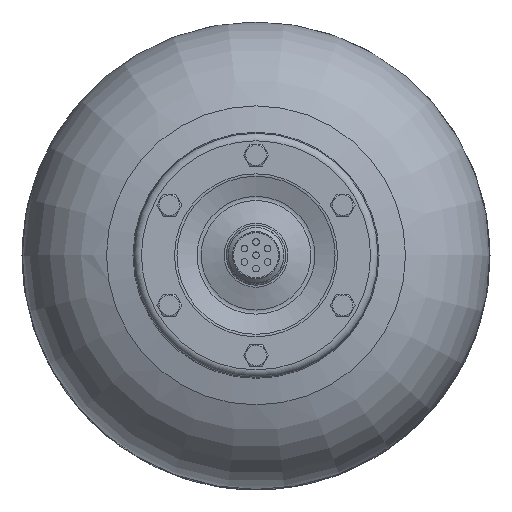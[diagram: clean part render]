
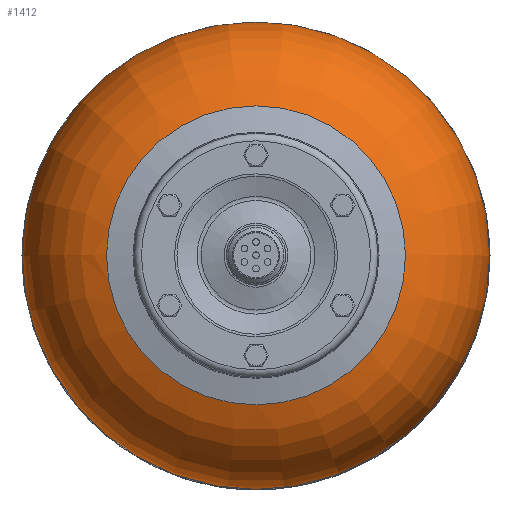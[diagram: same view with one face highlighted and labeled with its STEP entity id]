
A CAD part, top view. The second image highlights one B-rep face of the part: STEP entity #1412.
In plain terms, the highlighted toroidal (fillet/blend) face has major radius 70 mm and minor radius 70 mm.
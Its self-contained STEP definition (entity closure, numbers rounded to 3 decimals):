
#1412=ADVANCED_FACE('',(#2866,#2868),#2870,.T.);
#2866=FACE_BOUND('',#2867,.T.);
#2867=EDGE_LOOP('',(#3716,#3717));
#2868=FACE_OUTER_BOUND('',#2869,.T.);
#2869=EDGE_LOOP('',(#3718));
#2870=DEGENERATE_TOROIDAL_SURFACE('',#2871,70.,70.,.T.);
#2871=AXIS2_PLACEMENT_3D('',#2872,#2873,#2874);
#2872=CARTESIAN_POINT('',(0.,0.,143.349));
#2873=DIRECTION('',(0.,0.,1.));
#2874=DIRECTION('',(1.,0.,0.));
#3716=ORIENTED_EDGE('',*,*,#4141,.T.);
#3717=ORIENTED_EDGE('',*,*,#4142,.T.);
#3718=ORIENTED_EDGE('',*,*,#4143,.F.);
#4141=EDGE_CURVE('',#4784,#4785,#4786,.T.);
#4142=EDGE_CURVE('',#4785,#4784,#4787,.T.);
#4143=EDGE_CURVE('',#4788,#4788,#4789,.T.);
#4784=VERTEX_POINT('',#8214);
#4785=VERTEX_POINT('',#8215);
#4786=CIRCLE('',#8216,140.);
#4787=CIRCLE('',#8220,140.);
#4788=VERTEX_POINT('',#8224);
#4789=CIRCLE('',#8225,89.6);
#8214=CARTESIAN_POINT('',(140.,0.,143.349));
#8215=CARTESIAN_POINT('',(-140.,0.,143.349));
#8216=AXIS2_PLACEMENT_3D('',#8217,#8218,#8219);
#8217=CARTESIAN_POINT('',(0.,0.,143.349));
#8218=DIRECTION('',(0.,0.,1.));
#8219=DIRECTION('',(1.,0.,0.));
#8220=AXIS2_PLACEMENT_3D('',#8221,#8222,#8223);
#8221=CARTESIAN_POINT('',(0.,0.,143.349));
#8222=DIRECTION('',(0.,0.,1.));
#8223=DIRECTION('',(-1.,0.,0.));
#8224=CARTESIAN_POINT('',(-89.6,0.,210.549));
#8225=AXIS2_PLACEMENT_3D('',#8226,#8227,#8228);
#8226=CARTESIAN_POINT('',(0.,0.,210.549));
#8227=DIRECTION('',(0.,0.,1.));
#8228=DIRECTION('',(-1.,0.,0.));
